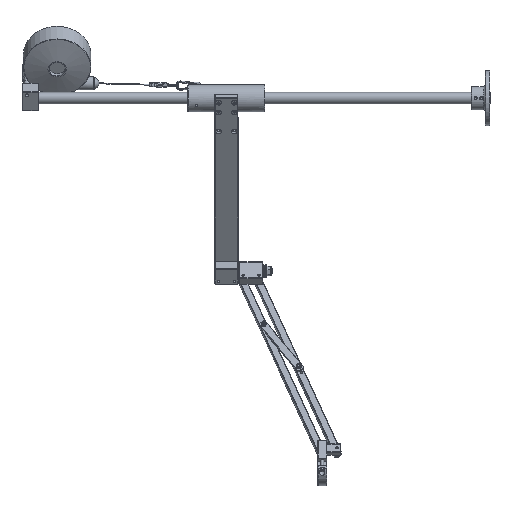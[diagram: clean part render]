
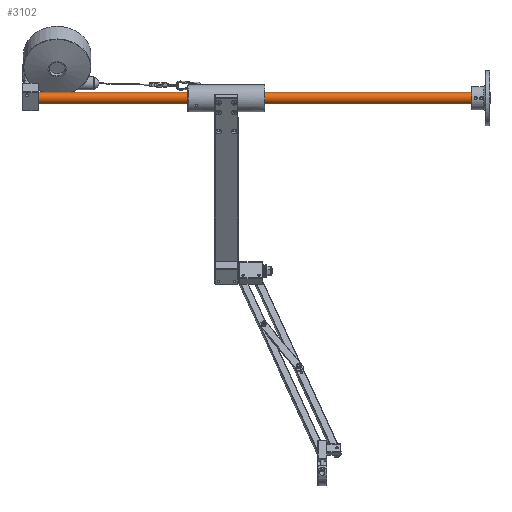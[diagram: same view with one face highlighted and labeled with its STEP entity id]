
A CAD part, left-side view. The second image highlights one B-rep face of the part: STEP entity #3102.
In plain terms, the highlighted cylindrical face has radius 12.5 mm (diameter 25 mm), a full revolution.
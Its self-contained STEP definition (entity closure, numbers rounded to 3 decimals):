
#3102 = ADVANCED_FACE( '', ( #6219, #6220 ), #6221, .T. );
#6219 = FACE_OUTER_BOUND( '', #10156, .T. );
#6220 = FACE_OUTER_BOUND( '', #10157, .T. );
#6221 = CYLINDRICAL_SURFACE( '', #10158, 12.5 );
#10156 = EDGE_LOOP( '', ( #16209 ) );
#10157 = EDGE_LOOP( '', ( #16210 ) );
#10158 = AXIS2_PLACEMENT_3D( '', #16211, #16212, #16213 );
#16209 = ORIENTED_EDGE( '', *, *, #20445, .T. );
#16210 = ORIENTED_EDGE( '', *, *, #22163, .T. );
#16211 = CARTESIAN_POINT( '', ( -20.166, 15.483, 1000. ) );
#16212 = DIRECTION( '', ( 0., 0., 1. ) );
#16213 = DIRECTION( '', ( -1., 0., 0. ) );
#20445 = EDGE_CURVE( '', #23842, #23842, #23843, .F. );
#22163 = EDGE_CURVE( '', #26433, #26433, #26434, .T. );
#23842 = VERTEX_POINT( '', #28690 );
#23843 = CIRCLE( '', #28691, 12.5 );
#26433 = VERTEX_POINT( '', #34091 );
#26434 = CIRCLE( '', #34092, 12.5 );
#28690 = CARTESIAN_POINT( '', ( -32.666, 15.483, 1. ) );
#28691 = AXIS2_PLACEMENT_3D( '', #36389, #36390, #36391 );
#34091 = CARTESIAN_POINT( '', ( -32.666, 15.483, 999. ) );
#34092 = AXIS2_PLACEMENT_3D( '', #38295, #38296, #38297 );
#36389 = CARTESIAN_POINT( '', ( -20.166, 15.483, 1. ) );
#36390 = DIRECTION( '', ( 0., 0., -1. ) );
#36391 = DIRECTION( '', ( -1., 0., 0. ) );
#38295 = CARTESIAN_POINT( '', ( -20.166, 15.483, 999. ) );
#38296 = DIRECTION( '', ( 0., 0., -1. ) );
#38297 = DIRECTION( '', ( -1., 0., 0. ) );
